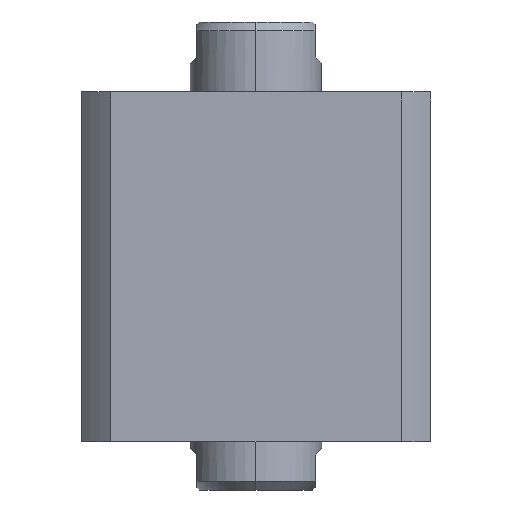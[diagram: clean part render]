
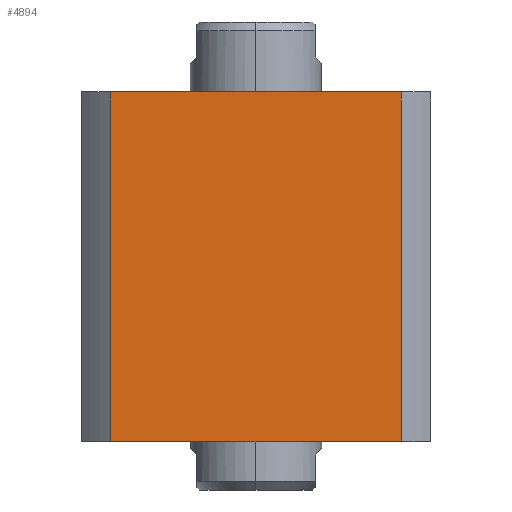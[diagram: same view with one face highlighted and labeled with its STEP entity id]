
A CAD part, left-side view. The second image highlights one B-rep face of the part: STEP entity #4894.
In plain terms, the highlighted planar face has unit normal (-1, 0, 0).
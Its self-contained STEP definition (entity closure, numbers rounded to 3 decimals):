
#429 = CARTESIAN_POINT ( 'NONE',  ( -40., 33.226, 40. ) ) ;
#1102 = VECTOR ( 'NONE', #4696, 1000. ) ;
#1545 = VECTOR ( 'NONE', #3454, 1000. ) ;
#1592 = FACE_OUTER_BOUND ( 'NONE', #8158, .T. ) ;
#1735 = ORIENTED_EDGE ( 'NONE', *, *, #5431, .F. ) ;
#1833 = EDGE_CURVE ( 'NONE', #6126, #9439, #9395, .T. ) ;
#2171 = DIRECTION ( 'NONE',  ( 0., 0., -1. ) ) ;
#2279 = CARTESIAN_POINT ( 'NONE',  ( -40., 33.226, 40. ) ) ;
#2381 = LINE ( 'NONE', #6699, #6165 ) ;
#2382 = DIRECTION ( 'NONE',  ( 1., 0., 0. ) ) ;
#2458 = CARTESIAN_POINT ( 'NONE',  ( -40., 33.226, -40. ) ) ;
#2676 = ORIENTED_EDGE ( 'NONE', *, *, #3714, .F. ) ;
#2900 = PLANE ( 'NONE',  #9332 ) ;
#3143 = CARTESIAN_POINT ( 'NONE',  ( -40., 33.226, -40. ) ) ;
#3177 = CARTESIAN_POINT ( 'NONE',  ( -40., -33.226, 40. ) ) ;
#3454 = DIRECTION ( 'NONE',  ( 0., -1., 0. ) ) ;
#3714 = EDGE_CURVE ( 'NONE', #4582, #4395, #8523, .T. ) ;
#4395 = VERTEX_POINT ( 'NONE', #3177 ) ;
#4582 = VERTEX_POINT ( 'NONE', #6426 ) ;
#4696 = DIRECTION ( 'NONE',  ( 0., -1., 0. ) ) ;
#4798 = VECTOR ( 'NONE', #5126, 1000. ) ;
#4894 = ADVANCED_FACE ( 'NONE', ( #1592 ), #2900, .F. ) ;
#5126 = DIRECTION ( 'NONE',  ( 0., 0., -1. ) ) ;
#5380 = LINE ( 'NONE', #8831, #4798 ) ;
#5431 = EDGE_CURVE ( 'NONE', #4395, #9439, #5380, .T. ) ;
#6126 = VERTEX_POINT ( 'NONE', #2458 ) ;
#6165 = VECTOR ( 'NONE', #2171, 1000. ) ;
#6426 = CARTESIAN_POINT ( 'NONE',  ( -40., 33.226, 40. ) ) ;
#6699 = CARTESIAN_POINT ( 'NONE',  ( -40., 33.226, 40. ) ) ;
#7059 = CARTESIAN_POINT ( 'NONE',  ( -40., -33.226, -40. ) ) ;
#7321 = ORIENTED_EDGE ( 'NONE', *, *, #1833, .T. ) ;
#7922 = EDGE_CURVE ( 'NONE', #4582, #6126, #2381, .T. ) ;
#8158 = EDGE_LOOP ( 'NONE', ( #7321, #1735, #2676, #9674 ) ) ;
#8367 = DIRECTION ( 'NONE',  ( 0., 1., 0. ) ) ;
#8523 = LINE ( 'NONE', #429, #1545 ) ;
#8831 = CARTESIAN_POINT ( 'NONE',  ( -40., -33.226, 40. ) ) ;
#9332 = AXIS2_PLACEMENT_3D ( 'NONE', #2279, #2382, #8367 ) ;
#9395 = LINE ( 'NONE', #3143, #1102 ) ;
#9439 = VERTEX_POINT ( 'NONE', #7059 ) ;
#9674 = ORIENTED_EDGE ( 'NONE', *, *, #7922, .T. ) ;
